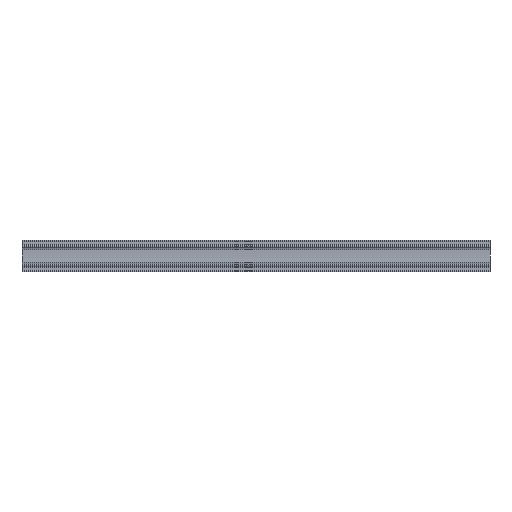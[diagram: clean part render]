
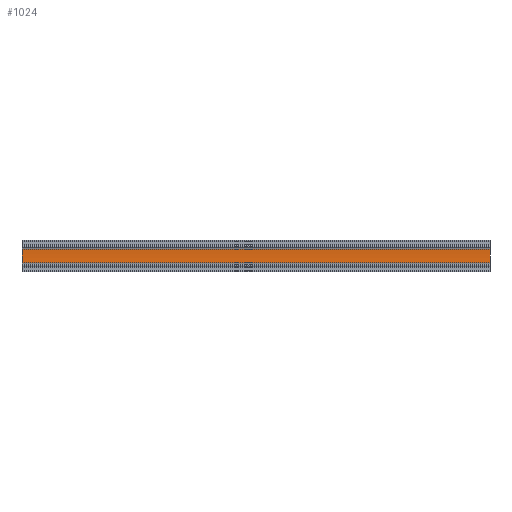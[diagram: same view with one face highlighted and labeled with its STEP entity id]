
A CAD part, front view. The second image highlights one B-rep face of the part: STEP entity #1024.
In plain terms, the highlighted cylindrical face has radius 50 mm (diameter 100 mm), a partial arc.
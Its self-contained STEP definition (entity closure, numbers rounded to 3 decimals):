
#70 = CARTESIAN_POINT ( 'NONE',  ( 0., 2.239, -3.255 ) ) ;
#163 = AXIS2_PLACEMENT_3D ( 'NONE', #1318, #1150, #1250 ) ;
#185 = LINE ( 'NONE', #640, #1609 ) ;
#258 = EDGE_LOOP ( 'NONE', ( #1136, #533, #973, #367 ) ) ;
#265 = CIRCLE ( 'NONE', #1980, 50. ) ;
#279 = CYLINDRICAL_SURFACE ( 'NONE', #326, 50. ) ;
#287 = FACE_OUTER_BOUND ( 'NONE', #258, .T. ) ;
#322 = DIRECTION ( 'NONE',  ( 0., 0., 1. ) ) ;
#326 = AXIS2_PLACEMENT_3D ( 'NONE', #898, #1070, #322 ) ;
#367 = ORIENTED_EDGE ( 'NONE', *, *, #1529, .T. ) ;
#435 = CIRCLE ( 'NONE', #163, 50. ) ;
#440 = LINE ( 'NONE', #1354, #547 ) ;
#471 = CARTESIAN_POINT ( 'NONE',  ( 200., 2.239, -3.255 ) ) ;
#533 = ORIENTED_EDGE ( 'NONE', *, *, #643, .F. ) ;
#547 = VECTOR ( 'NONE', #2008, 1000. ) ;
#640 = CARTESIAN_POINT ( 'NONE',  ( 200., 2.239, 2.468 ) ) ;
#643 = EDGE_CURVE ( 'NONE', #955, #783, #440, .T. ) ;
#724 = EDGE_CURVE ( 'NONE', #1343, #783, #435, .T. ) ;
#783 = VERTEX_POINT ( 'NONE', #70 ) ;
#898 = CARTESIAN_POINT ( 'NONE',  ( 200., -47.679, -0.393 ) ) ;
#905 = EDGE_CURVE ( 'NONE', #1598, #955, #265, .T. ) ;
#955 = VERTEX_POINT ( 'NONE', #471 ) ;
#973 = ORIENTED_EDGE ( 'NONE', *, *, #905, .F. ) ;
#1024 = ADVANCED_FACE ( 'NONE', ( #287 ), #279, .F. ) ;
#1061 = DIRECTION ( 'NONE',  ( 0., 0., -1. ) ) ;
#1070 = DIRECTION ( 'NONE',  ( -1., 0., 0. ) ) ;
#1078 = DIRECTION ( 'NONE',  ( -1., 0., 0. ) ) ;
#1136 = ORIENTED_EDGE ( 'NONE', *, *, #724, .T. ) ;
#1150 = DIRECTION ( 'NONE',  ( -1., 0., 0. ) ) ;
#1207 = CARTESIAN_POINT ( 'NONE',  ( 0., 2.239, 2.468 ) ) ;
#1250 = DIRECTION ( 'NONE',  ( 0., 0., -1. ) ) ;
#1318 = CARTESIAN_POINT ( 'NONE',  ( 0., -47.679, -0.393 ) ) ;
#1343 = VERTEX_POINT ( 'NONE', #1207 ) ;
#1354 = CARTESIAN_POINT ( 'NONE',  ( 200., 2.239, -3.255 ) ) ;
#1529 = EDGE_CURVE ( 'NONE', #1598, #1343, #185, .T. ) ;
#1598 = VERTEX_POINT ( 'NONE', #1818 ) ;
#1609 = VECTOR ( 'NONE', #1927, 1000. ) ;
#1705 = CARTESIAN_POINT ( 'NONE',  ( 200., -47.679, -0.393 ) ) ;
#1818 = CARTESIAN_POINT ( 'NONE',  ( 200., 2.239, 2.468 ) ) ;
#1927 = DIRECTION ( 'NONE',  ( -1., 0., 0. ) ) ;
#1980 = AXIS2_PLACEMENT_3D ( 'NONE', #1705, #1078, #1061 ) ;
#2008 = DIRECTION ( 'NONE',  ( -1., 0., 0. ) ) ;
